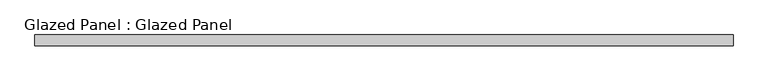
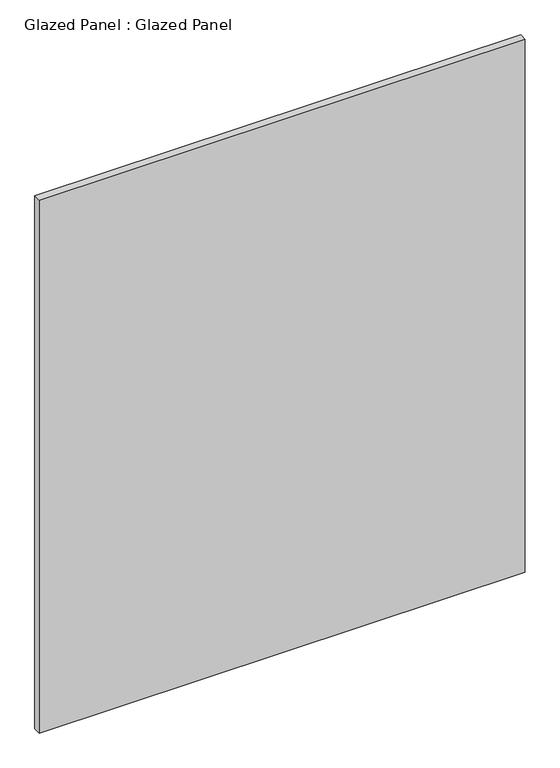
"""IFC4 building model written with IfcOpenShell, lengths in millimetres: plate geometry, Glazed Panel : Glazed Panel."""

from ifc_helpers import new_model, si_unit, origin, origin_with_axes, place, context, project, spatial, polyline, outline, extrude, source, transform, mapped, element, save


def glazed_panel_glazed_panel_cf187918(model_context):
    return source(origin(), model_context, "Body", "SweptSolid", [
        extrude(outline(polyline([(835.8873557, -38.1), (835.8873557, -63.5), (-835.8873557, -63.5), (-835.8873557, -38.1), (835.8873557, -38.1)])), origin_with_axes(), (0.0, 0.0, 1.0), 1936.75),
    ])


if __name__ == "__main__":
    model = new_model("IFC4")
    model_context = context("Model", 3, world=origin())
    ifc_project = project(units=[si_unit("LENGTHUNIT", "METRE", prefix="MILLI")], contexts=[model_context])
    site = spatial("IfcSite", under=ifc_project)
    building = spatial("IfcBuilding", under=site)
    placement = place(None, origin())
    glazed_panel_glazed_panel_shape = glazed_panel_glazed_panel_cf187918(model_context)
    element("IfcPlate", 1, ObjectType="Glazed Panel : Glazed Panel", at=placement, inside=building, context=model_context, shape_type="MappedRepresentation", body=[
        mapped(glazed_panel_glazed_panel_shape, transform((0.0, 0.0, 0.0), x_axis=(1.0, 0.0, 0.0), y_axis=(0.0, 1.0, 0.0), z_axis=(0.0, 0.0, 1.0))),
    ])
    save(model, "model.ifc")
